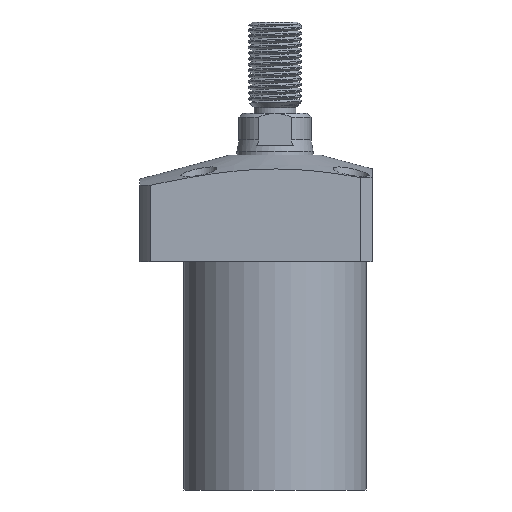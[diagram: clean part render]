
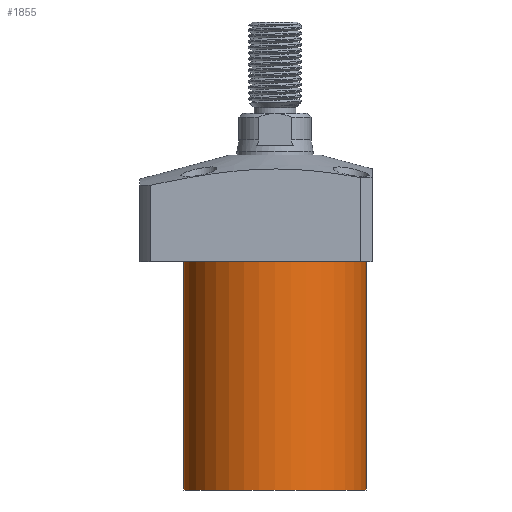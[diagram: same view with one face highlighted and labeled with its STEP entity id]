
A CAD part, front view. The second image highlights one B-rep face of the part: STEP entity #1855.
In plain terms, the highlighted cylindrical face has radius 24 mm (diameter 48 mm), a partial arc.
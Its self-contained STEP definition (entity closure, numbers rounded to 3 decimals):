
#92 = LINE ( 'NONE', #4221, #2936 ) ;
#163 = AXIS2_PLACEMENT_3D ( 'NONE', #3886, #607, #2232 ) ;
#167 = ORIENTED_EDGE ( 'NONE', *, *, #305, .F. ) ;
#213 = DIRECTION ( 'NONE',  ( 0., 0., 1. ) ) ;
#305 = EDGE_CURVE ( 'NONE', #2639, #2535, #801, .T. ) ;
#460 = VECTOR ( 'NONE', #213, 1000. ) ;
#607 = DIRECTION ( 'NONE',  ( 0., 0., 1. ) ) ;
#801 = CIRCLE ( 'NONE', #1948, 24. ) ;
#889 = DIRECTION ( 'NONE',  ( -1., 0., 0. ) ) ;
#1101 = AXIS2_PLACEMENT_3D ( 'NONE', #2800, #1635, #1177 ) ;
#1177 = DIRECTION ( 'NONE',  ( 1., 0., 0. ) ) ;
#1211 = CARTESIAN_POINT ( 'NONE',  ( -24., 0., -74. ) ) ;
#1324 = CIRCLE ( 'NONE', #1101, 24. ) ;
#1433 = EDGE_CURVE ( 'NONE', #4457, #1752, #1324, .T. ) ;
#1635 = DIRECTION ( 'NONE',  ( 0., 0., -1. ) ) ;
#1752 = VERTEX_POINT ( 'NONE', #4987 ) ;
#1759 = DIRECTION ( 'NONE',  ( 0., 0., 1. ) ) ;
#1855 = ADVANCED_FACE ( 'NONE', ( #4852 ), #3082, .T. ) ;
#1948 = AXIS2_PLACEMENT_3D ( 'NONE', #3300, #2436, #889 ) ;
#1952 = CARTESIAN_POINT ( 'NONE',  ( 24., 0., -14. ) ) ;
#2232 = DIRECTION ( 'NONE',  ( 1., 0., 0. ) ) ;
#2436 = DIRECTION ( 'NONE',  ( 0., 0., -1. ) ) ;
#2535 = VERTEX_POINT ( 'NONE', #1211 ) ;
#2639 = VERTEX_POINT ( 'NONE', #3301 ) ;
#2774 = EDGE_CURVE ( 'NONE', #2535, #1752, #92, .T. ) ;
#2800 = CARTESIAN_POINT ( 'NONE',  ( 0., 0., -14. ) ) ;
#2936 = VECTOR ( 'NONE', #1759, 1000. ) ;
#3082 = CYLINDRICAL_SURFACE ( 'NONE', #163, 24. ) ;
#3300 = CARTESIAN_POINT ( 'NONE',  ( 0., 0., -74. ) ) ;
#3301 = CARTESIAN_POINT ( 'NONE',  ( 24., 0., -74. ) ) ;
#3630 = EDGE_CURVE ( 'NONE', #2639, #4457, #4734, .T. ) ;
#3757 = CARTESIAN_POINT ( 'NONE',  ( 24., 0., -74. ) ) ;
#3886 = CARTESIAN_POINT ( 'NONE',  ( 0., 0., -74. ) ) ;
#4045 = ORIENTED_EDGE ( 'NONE', *, *, #3630, .T. ) ;
#4221 = CARTESIAN_POINT ( 'NONE',  ( -24., 0., -74. ) ) ;
#4261 = ORIENTED_EDGE ( 'NONE', *, *, #2774, .F. ) ;
#4457 = VERTEX_POINT ( 'NONE', #1952 ) ;
#4521 = ORIENTED_EDGE ( 'NONE', *, *, #1433, .T. ) ;
#4734 = LINE ( 'NONE', #3757, #460 ) ;
#4801 = EDGE_LOOP ( 'NONE', ( #4261, #167, #4045, #4521 ) ) ;
#4852 = FACE_OUTER_BOUND ( 'NONE', #4801, .T. ) ;
#4987 = CARTESIAN_POINT ( 'NONE',  ( -24., 0., -14. ) ) ;
